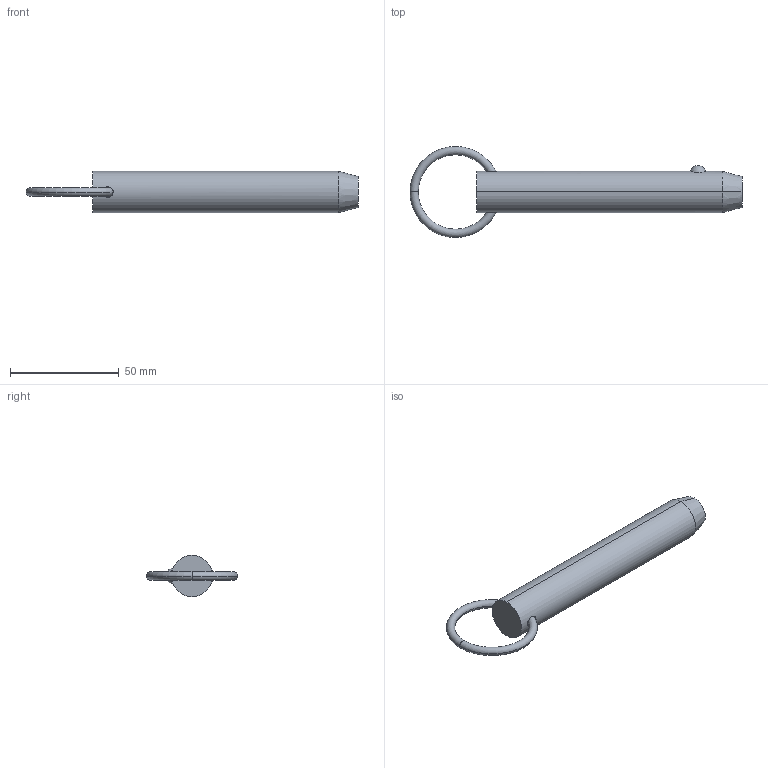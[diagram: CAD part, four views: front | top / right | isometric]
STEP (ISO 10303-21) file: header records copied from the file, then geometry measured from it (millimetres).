
FILE_DESCRIPTION (( 'STEP AP203' ), '1' );
FILE_NAME ('33010.W7535.step', '2024-11-01T10:44:00', ( '' ), ( '' ), 'SwSTEP 2.0', 'SolidWorks 2019', '' );
FILE_SCHEMA (( 'CONFIG_CONTROL_DESIGN' ));
Length unit declared in the file: millimetre
Products named in the file (3): 33010.W7535; Part2_33010.W7535; Part1_33010.W7535
Assembly tree (2 placements, depth 2):
  33010.W7535
    Part1_33010.W7535
    Part2_33010.W7535
Bounding box: 152.85 x 41.91 x 19.05 mm (x, y, z)
Volume: 35339.2 mm3; surface area: 9423.9 mm2
Topology: 2 solids, 2 shells, 16 faces, 31 edges, 18 vertices
Faces by surface type: torus 8, sphere 2, cone 2, cylinder 2, plane 2
Entity records: 893 total; most frequent: CARTESIAN_POINT 250, DIRECTION 88, ORIENTED_EDGE 62, AXIS2_PLACEMENT_3D 42, EDGE_CURVE 31, PERSON_AND_ORGANIZATION 26, CIRCLE 21, EDGE_LOOP 19
